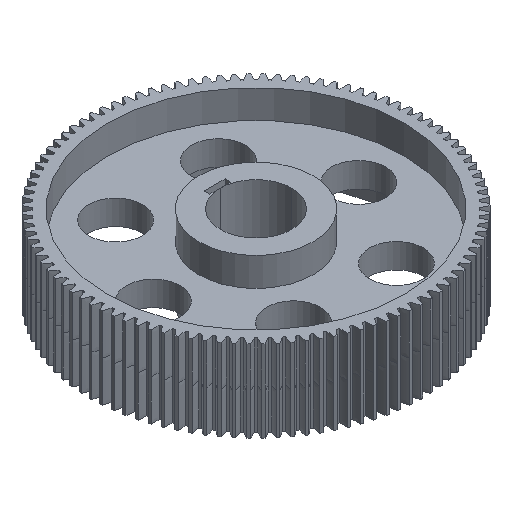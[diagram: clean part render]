
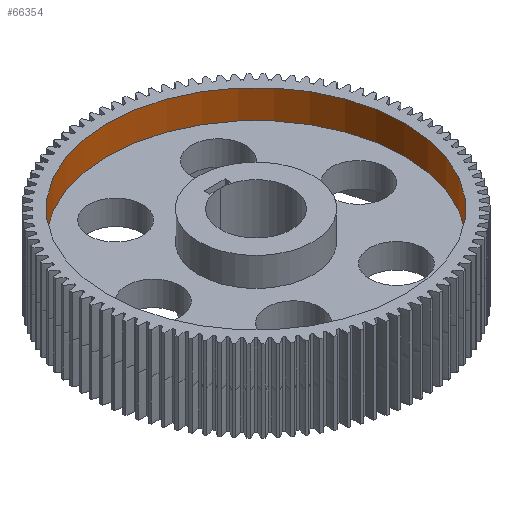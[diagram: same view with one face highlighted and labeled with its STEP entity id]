
A CAD part, isometric view. The second image highlights one B-rep face of the part: STEP entity #66354.
In plain terms, the highlighted cylindrical face has radius 114.375 mm (diameter 228.75 mm), a full revolution.
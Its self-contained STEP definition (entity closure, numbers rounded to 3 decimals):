
#318 = PLANE('',#319);
#319 = AXIS2_PLACEMENT_3D('',#320,#321,#322);
#320 = CARTESIAN_POINT('',(0.,0.,31.5));
#321 = DIRECTION('',(0.,0.,1.));
#322 = DIRECTION('',(1.,0.,-0.));
#38566 = EDGE_CURVE('',#38567,#38567,#38569,.T.);
#38567 = VERTEX_POINT('',#38568);
#38568 = CARTESIAN_POINT('',(114.375,0.,31.5));
#38569 = SURFACE_CURVE('',#38570,(#38575,#38582),.PCURVE_S1.);
#38570 = CIRCLE('',#38571,114.375);
#38571 = AXIS2_PLACEMENT_3D('',#38572,#38573,#38574);
#38572 = CARTESIAN_POINT('',(0.,0.,31.5));
#38573 = DIRECTION('',(0.,0.,1.));
#38574 = DIRECTION('',(1.,0.,-0.));
#38575 = PCURVE('',#318,#38576);
#38576 = DEFINITIONAL_REPRESENTATION('',(#38577),#38581);
#38577 = CIRCLE('',#38578,114.375);
#38578 = AXIS2_PLACEMENT_2D('',#38579,#38580);
#38579 = CARTESIAN_POINT('',(0.,0.));
#38580 = DIRECTION('',(1.,0.));
#38581 = ( GEOMETRIC_REPRESENTATION_CONTEXT(2) 
PARAMETRIC_REPRESENTATION_CONTEXT() REPRESENTATION_CONTEXT('2D SPACE',''
  ) );
#38582 = PCURVE('',#38583,#38588);
#38583 = CYLINDRICAL_SURFACE('',#38584,114.375);
#38584 = AXIS2_PLACEMENT_3D('',#38585,#38586,#38587);
#38585 = CARTESIAN_POINT('',(0.,0.,9.5));
#38586 = DIRECTION('',(0.,0.,1.));
#38587 = DIRECTION('',(1.,0.,-0.));
#38588 = DEFINITIONAL_REPRESENTATION('',(#38589),#38593);
#38589 = LINE('',#38590,#38591);
#38590 = CARTESIAN_POINT('',(0.,22.));
#38591 = VECTOR('',#38592,1.);
#38592 = DIRECTION('',(1.,0.));
#38593 = ( GEOMETRIC_REPRESENTATION_CONTEXT(2) 
PARAMETRIC_REPRESENTATION_CONTEXT() REPRESENTATION_CONTEXT('2D SPACE',''
  ) );
#66354 = ADVANCED_FACE('',(#66355),#38583,.F.);
#66355 = FACE_BOUND('',#66356,.F.);
#66356 = EDGE_LOOP('',(#66357,#66358,#66381,#66408));
#66357 = ORIENTED_EDGE('',*,*,#38566,.F.);
#66358 = ORIENTED_EDGE('',*,*,#66359,.F.);
#66359 = EDGE_CURVE('',#66360,#38567,#66362,.T.);
#66360 = VERTEX_POINT('',#66361);
#66361 = CARTESIAN_POINT('',(114.375,0.,9.5));
#66362 = SEAM_CURVE('',#66363,(#66367,#66374),.PCURVE_S1.);
#66363 = LINE('',#66364,#66365);
#66364 = CARTESIAN_POINT('',(114.375,0.,9.5));
#66365 = VECTOR('',#66366,1.);
#66366 = DIRECTION('',(0.,0.,1.));
#66367 = PCURVE('',#38583,#66368);
#66368 = DEFINITIONAL_REPRESENTATION('',(#66369),#66373);
#66369 = LINE('',#66370,#66371);
#66370 = CARTESIAN_POINT('',(6.283,-0.));
#66371 = VECTOR('',#66372,1.);
#66372 = DIRECTION('',(0.,1.));
#66373 = ( GEOMETRIC_REPRESENTATION_CONTEXT(2) 
PARAMETRIC_REPRESENTATION_CONTEXT() REPRESENTATION_CONTEXT('2D SPACE',''
  ) );
#66374 = PCURVE('',#38583,#66375);
#66375 = DEFINITIONAL_REPRESENTATION('',(#66376),#66380);
#66376 = LINE('',#66377,#66378);
#66377 = CARTESIAN_POINT('',(0.,-0.));
#66378 = VECTOR('',#66379,1.);
#66379 = DIRECTION('',(0.,1.));
#66380 = ( GEOMETRIC_REPRESENTATION_CONTEXT(2) 
PARAMETRIC_REPRESENTATION_CONTEXT() REPRESENTATION_CONTEXT('2D SPACE',''
  ) );
#66381 = ORIENTED_EDGE('',*,*,#66382,.T.);
#66382 = EDGE_CURVE('',#66360,#66360,#66383,.T.);
#66383 = SURFACE_CURVE('',#66384,(#66389,#66396),.PCURVE_S1.);
#66384 = CIRCLE('',#66385,114.375);
#66385 = AXIS2_PLACEMENT_3D('',#66386,#66387,#66388);
#66386 = CARTESIAN_POINT('',(0.,0.,9.5));
#66387 = DIRECTION('',(0.,0.,1.));
#66388 = DIRECTION('',(1.,0.,-0.));
#66389 = PCURVE('',#38583,#66390);
#66390 = DEFINITIONAL_REPRESENTATION('',(#66391),#66395);
#66391 = LINE('',#66392,#66393);
#66392 = CARTESIAN_POINT('',(0.,0.));
#66393 = VECTOR('',#66394,1.);
#66394 = DIRECTION('',(1.,0.));
#66395 = ( GEOMETRIC_REPRESENTATION_CONTEXT(2) 
PARAMETRIC_REPRESENTATION_CONTEXT() REPRESENTATION_CONTEXT('2D SPACE',''
  ) );
#66396 = PCURVE('',#66397,#66402);
#66397 = PLANE('',#66398);
#66398 = AXIS2_PLACEMENT_3D('',#66399,#66400,#66401);
#66399 = CARTESIAN_POINT('',(0.,0.,9.5));
#66400 = DIRECTION('',(0.,0.,1.));
#66401 = DIRECTION('',(1.,0.,-0.));
#66402 = DEFINITIONAL_REPRESENTATION('',(#66403),#66407);
#66403 = CIRCLE('',#66404,114.375);
#66404 = AXIS2_PLACEMENT_2D('',#66405,#66406);
#66405 = CARTESIAN_POINT('',(0.,0.));
#66406 = DIRECTION('',(1.,0.));
#66407 = ( GEOMETRIC_REPRESENTATION_CONTEXT(2) 
PARAMETRIC_REPRESENTATION_CONTEXT() REPRESENTATION_CONTEXT('2D SPACE',''
  ) );
#66408 = ORIENTED_EDGE('',*,*,#66359,.T.);
